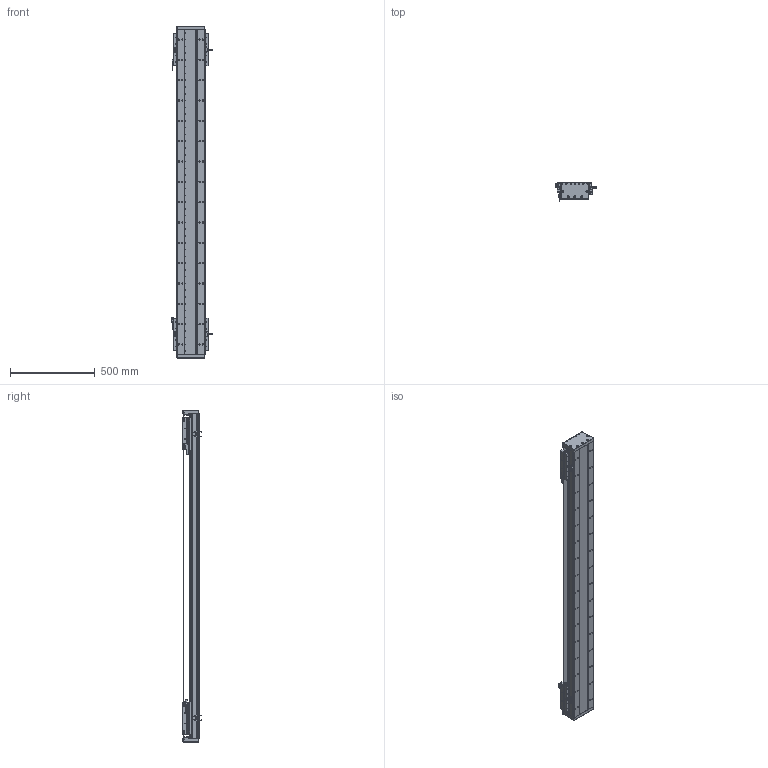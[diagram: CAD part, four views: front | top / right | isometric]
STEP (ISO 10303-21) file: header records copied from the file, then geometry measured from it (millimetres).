
FILE_DESCRIPTION (( 'STEP AP203' ), '1' );
FILE_NAME ('DA-C165-2-C2-T1460-C010-0.2 直线电机.STEP', '2023-05-11T08:22:27', ( '微软用户' ), ( '微软中国' ), 'SwSTEP 2.0', 'SolidWorks 2019', '' );
FILE_SCHEMA (( 'CONFIG_CONTROL_DESIGN' ));
Length unit declared in the file: millimetre
Products named in the file (22): 复件 DA165-GYP-00 光电感应片^DA-C165-C2-T-C010-0.2-N 直线电机; 复件 DA165-GD-1860-002-00 钢带盖板^复件 CU165钢带组件_DA-C165-C2-T-C010-0.2-N 直线电机; 复件 66338-1000-006-00 光电感应块^DA-C165-C2-T-C010-0.2-N 直线电机; 葩璃 CKM01-W075-TRL^DA-C165-C2-T-C010-0.2-N 眻盄萇儂; DA-C165-2-C2-T1460-C010-0.2 眻盄萇儂; 复件 DKW-HXJ-JY-00 缓冲橡胶^DA-C165-C2-T-C010-0.2-N 直线电机; 复件 XD-U-02L 磁栅尺^DA-C165-C2-T-C010-0.2-N 直线电机_T; 葩璃 PM-Y45^DA-C165-C2-T-C010-0.2-N 眻盄萇儂; 复件 CU165钢带组件^DA-C165-C2-T-C010-0.2-N 直线电机; 复件 DMA-010-0.2 读数头^DA-C165-C2-T-C010-0.2-N 直线电机; 复件 DA126-GYP-ZJ-00 中间光电感应片^DA-C165-C2-T-C010-0.2-N 直线电机; 复件 六角薄螺母 M3^DA-C165-C2-T-C010-0.2-N 直线电机_GB_FASTENER_NUT_STNAB M3-C; 复件 CKM02-W075-C1C2-TP-3.0 一体电机-C2^DA-C165-C2-T-C010-0.2-N 直线电机; 葩璃 DA95-GT-T-00^IU-CU165-L 菁釱絳寢_T; 葩璃 PM-T45^DA-C165-C2-T-C010-0.2-N 眻盄萇儂; 复件 DA95-HXJ-00 缓冲橡胶^DA-C165-C2-T-C010-0.2-N 直线电机; 珨极趙賑雄怢啣wf-C2; 复件 DA165-GDLK-00 钢带拉块^复件 CU165钢带组件_DA-C165-C2-T-C010-0.2-N 直线电机; 复件 DA165-GD-DG-H-00 端盖^复件 CU165钢带组件_DA-C165-C2-T-C010-0.2-N 直线电机; 复件 DA165-GDYK-00 钢带压块^复件 CU165钢带组件_DA-C165-C2-T-C010-0.2-N 直线电机; IU-CU165-L 菁釱絳寢; IU-CU165-L-00 菁釱_L1920
Assembly tree (43 placements, depth 3):
  DA-C165-2-C2-T1460-C010-0.2 眻盄萇儂
    IU-CU165-L 菁釱絳寢
      IU-CU165-L-00 菁釱_L1920
      葩璃 DA95-GT-T-00^IU-CU165-L 菁釱絳寢_T  x4
    复件 XD-U-02L 磁栅尺^DA-C165-C2-T-C010-0.2-N 直线电机_T
    葩璃 PM-T45^DA-C165-C2-T-C010-0.2-N 眻盄萇儂  x4
    葩璃 CKM01-W075-TRL^DA-C165-C2-T-C010-0.2-N 眻盄萇儂
    复件 CU165钢带组件^DA-C165-C2-T-C010-0.2-N 直线电机
      复件 DA165-GD-DG-H-00 端盖^复件 CU165钢带组件_DA-C165-C2-T-C010-0.2-N 直线电机  x2
      复件 DA165-GDYK-00 钢带压块^复件 CU165钢带组件_DA-C165-C2-T-C010-0.2-N 直线电机  x2
      复件 DA165-GD-1860-002-00 钢带盖板^复件 CU165钢带组件_DA-C165-C2-T-C010-0.2-N 直线电机
      复件 DA165-GDLK-00 钢带拉块^复件 CU165钢带组件_DA-C165-C2-T-C010-0.2-N 直线电机  x2
    复件 DA95-HXJ-00 缓冲橡胶^DA-C165-C2-T-C010-0.2-N 直线电机  x4
    复件 CKM02-W075-C1C2-TP-3.0 一体电机-C2^DA-C165-C2-T-C010-0.2-N 直线电机  x2
    复件 DMA-010-0.2 读数头^DA-C165-C2-T-C010-0.2-N 直线电机  x2
    复件 DA165-GYP-00 光电感应片^DA-C165-C2-T-C010-0.2-N 直线电机  x2
    复件 66338-1000-006-00 光电感应块^DA-C165-C2-T-C010-0.2-N 直线电机
    葩璃 PM-Y45^DA-C165-C2-T-C010-0.2-N 眻盄萇儂
    复件 DA126-GYP-ZJ-00 中间光电感应片^DA-C165-C2-T-C010-0.2-N 直线电机
    复件 DKW-HXJ-JY-00 缓冲橡胶^DA-C165-C2-T-C010-0.2-N 直线电机  x2
    复件 六角薄螺母 M3^DA-C165-C2-T-C010-0.2-N 直线电机_GB_FASTENER_NUT_STNAB M3-C  x6
    珨极趙賑雄怢啣wf-C2  x2
Bounding box: 247.2 x 111.45 x 1960 mm (x, y, z)
Volume: 13024409.8 mm3; surface area: 3670934.6 mm2
Topology: 119 solids, 119 shells, 5315 faces, 14598 edges, 9158 vertices
Faces by surface type: cylinder 2740, plane 1783, cone 704, torus 80, sphere 8
Entity records: 118844 total; most frequent: CARTESIAN_POINT 30043, ORIENTED_EDGE 18140, DIRECTION 17890, EDGE_CURVE 9070, AXIS2_PLACEMENT_3D 6752, VERTEX_POINT 5895, VECTOR 4386, LINE 4386
